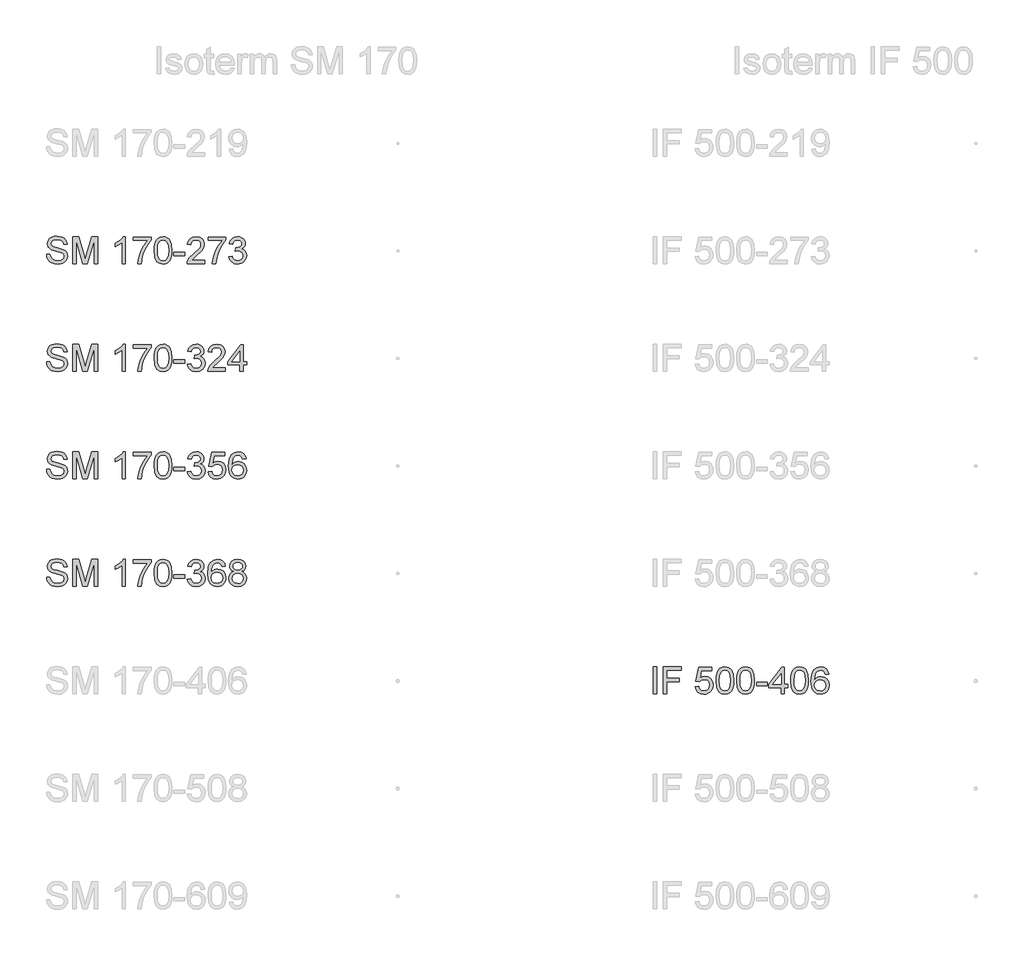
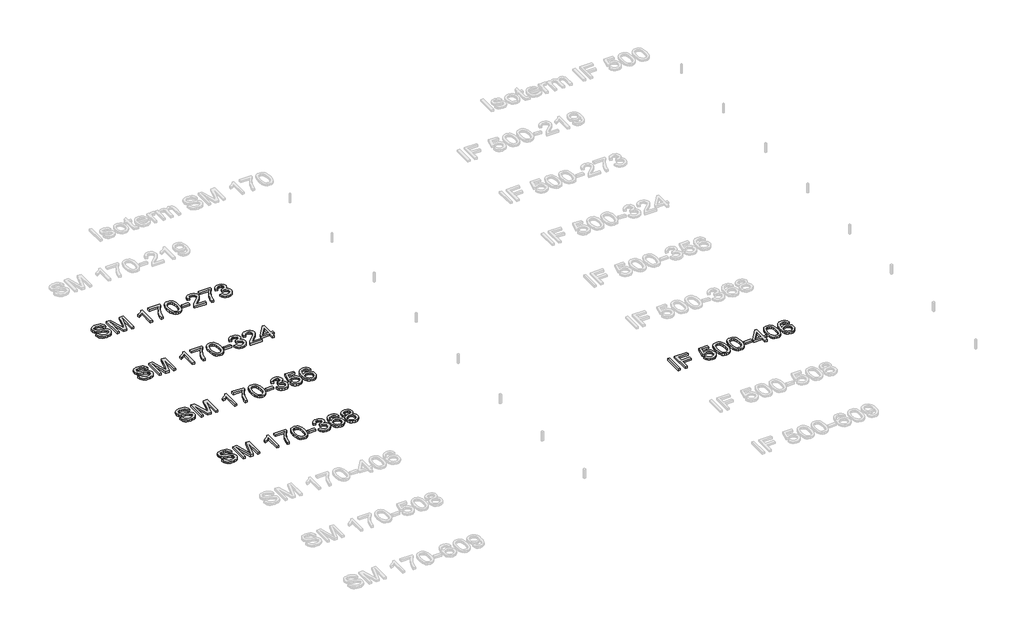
# One storey, part 3 of 10: 5 proxies.
"""IFC4 building model written with IfcOpenShell, lengths in millimetres."""

from ifc_helpers import new_model, si_unit, origin, origin_with_axes, place, context, project, spatial, polyline, outline, extrude, element, save

model = new_model("IFC4")

# Units and contexts
model_context = context("Model", 3, world=origin())
ifc_project = project(units=[si_unit("LENGTHUNIT", "METRE", prefix="MILLI")], contexts=[model_context])

# Site, building, storey
site = spatial("IfcSite", under=ifc_project)
building = spatial("IfcBuilding", under=site)
storey = spatial("IfcBuildingStorey", under=building, Name="Этаж 01", Elevation=0.0)

# Proxies
placement = place(None, origin())
element("IfcBuildingElementProxy", 1, Name="200 мм Arial", ObjectType="200 мм Arial", at=placement, inside=storey, context=model_context, shape_type="SweptSolid", body=[
    extrude(outline(polyline([(362.1098597, -1525.9144615), (387.2239373, -1525.9144615), (395.3173412, -1551.0530645), (403.4475333, -1559.9435461), (415.084867, -1566.9455667), (429.3096375, -1571.4889093), (445.2021397, -1573.0033569), (471.4443887, -1568.4170947), (488.3914859, -1555.811005), (493.9587668, -1538.9620096), (489.7894375, -1523.2902366), (483.4373417, -1517.091425), (472.7197129, -1511.8858947), (436.1522426, -1502.2964374), (396.7888691, -1489.9110769), (384.2870127, -1481.4620537), (375.427188, -1471.2226715), (370.1480813, -1459.4136595), (368.3883791, -1446.2557468), (370.5650143, -1431.5465984), (377.0949197, -1417.8307313), (387.8064171, -1406.2056603), (402.5278283, -1397.7688998), (420.1984268, -1392.636946), (439.7574862, -1390.9262947), (460.9474891, -1392.7166538), (479.4887417, -1398.0877309), (494.7190563, -1406.9291615), (505.9762453, -1419.130581), (513.1008933, -1433.9317), (515.9335846, -1450.5722289), (490.8195071, -1450.5722289), (486.2087194, -1435.5871689), (476.5947366, -1424.7714383), (461.5728885, -1418.2231388), (440.7385048, -1416.0403723), (419.4136118, -1418.1986133), (404.7841712, -1424.6733364), (396.3228853, -1434.2014801), (393.5024567, -1445.5199828), (395.5012822, -1455.1707538), (401.4977587, -1462.9330639), (415.6734782, -1469.8737709), (442.5043384, -1476.9616307), (486.9444834, -1489.5677204), (501.2612244, -1498.6789311), (511.2492206, -1509.9238574), (517.1169384, -1523.179872), (519.0728443, -1538.3243475), (516.8226328, -1553.8060481), (510.0719982, -1568.3680437), (499.096852, -1580.900557), (484.1731057, -1590.2938107), (466.2265957, -1596.1615285), (446.1831584, -1598.1174344), (421.5779843, -1596.0082443), (401.3260804, -1589.680674), (385.1944549, -1579.110198), (372.9501159, -1564.2722909), (365.0897039, -1546.1970222), (362.1098597, -1525.9144615)])), origin_with_axes(), (0.0, 0.0, 1.0), 20.0),
    extrude(outline(polyline([(556.7439606, -1594.9781747), (556.7439606, -1394.0655544), (599.9578323, -1394.0655544), (641.0625139, -1535.6755971), (649.3521216, -1565.2533095), (658.3284422, -1533.2230505), (698.7464108, -1394.0655544), (741.9602825, -1394.0655544), (741.9602825, -1594.9781747), (716.8462049, -1594.9781747), (716.8462049, -1419.179632), (666.3727952, -1594.9781747), (632.3314479, -1594.9781747), (581.8580382, -1419.179632), (581.8580382, -1594.9781747), (556.7439606, -1594.9781747)])), origin_with_axes(), (0.0, 0.0, 1.0), 20.0),
    extrude(outline(polyline([(949.1514222, -1594.9781747), (924.0373446, -1594.9781747), (924.0373446, -1438.4075976), (900.2476423, -1455.3546948), (873.8091896, -1468.0343609), (873.8091896, -1444.2937095), (910.6219145, -1420.7983127), (924.0925269, -1407.2234671), (932.9646144, -1394.0655544), (949.1514222, -1394.0655544), (949.1514222, -1594.9781747)])), origin_with_axes(), (0.0, 0.0, 1.0), 20.0),
    extrude(outline(polyline([(1008.7973563, -1422.3188917), (1008.7973563, -1397.2048141), (1140.6462634, -1397.2048141), (1140.6462634, -1417.5119003), (1121.8536248, -1441.2954712), (1103.2449272, -1471.5415026), (1086.8312589, -1505.4908794), (1074.623708, -1540.3844866), (1065.3040308, -1594.9781747), (1040.1899532, -1594.9781747), (1042.9061486, -1569.091545), (1050.171818, -1538.3243475), (1061.7907577, -1505.7116086), (1077.566764, -1474.2883548), (1095.9853892, -1445.8817334), (1115.5321859, -1422.3188917), (1008.7973563, -1422.3188917)])), origin_with_axes(), (0.0, 0.0, 1.0), 20.0),
    extrude(outline(polyline([(1162.6210812, -1496.1405454), (1164.4666226, -1463.9815276), (1170.0032466, -1438.3340212), (1179.175771, -1418.8056186), (1191.9290135, -1405.0039124), (1208.3549446, -1396.8001439), (1228.5455348, -1394.0655544), (1244.021104, -1395.6842352), (1257.8779925, -1400.5402775), (1269.4662754, -1408.4436091), (1278.1360277, -1419.2041574), (1289.9082516, -1448.9290226), (1294.4699883, -1496.1405454), (1292.6428411, -1528.1156221), (1287.1613993, -1553.7018149), (1278.0440572, -1573.2486115), (1265.3092088, -1587.1055), (1248.8464895, -1595.3644508), (1228.5455348, -1598.1174344), (1202.4504386, -1593.3349685), (1182.6338618, -1578.9875707), (1173.8782703, -1563.8584236), (1167.6242764, -1545.007537), (1162.6210812, -1496.1405454)]), holes=[polyline([(1187.7351588, -1496.0914944), (1190.6782147, -1535.5958893), (1199.5073826, -1558.4597553), (1212.6530326, -1569.3674565), (1228.5455348, -1573.0033569), (1244.438037, -1569.3551938), (1257.5836869, -1558.4107044), (1266.4128548, -1535.5345757), (1269.3559108, -1496.0914944), (1266.5109567, -1457.4761477), (1257.9760944, -1434.434472), (1244.8549699, -1422.993342), (1228.2512292, -1419.179632), (1212.5304052, -1422.5396209), (1199.8997901, -1432.6195875), (1190.7763166, -1457.0960029), (1187.7351588, -1496.0914944)])]), origin_with_axes(), (0.0, 0.0, 1.0), 20.0),
    extrude(outline(polyline([(1310.1662868, -1535.3322406), (1310.1662868, -1510.218163), (1388.6477791, -1510.218163), (1388.6477791, -1535.3322406), (1310.1662868, -1535.3322406)])), origin_with_axes(), (0.0, 0.0, 1.0), 20.0),
    extrude(outline(polyline([(1539.3322443, -1569.8640972), (1539.3322443, -1594.9781747), (1407.4833372, -1594.9781747), (1410.1811385, -1577.6631955), (1425.4359786, -1551.0040136), (1456.8776264, -1521.892285), (1500.2386509, -1480.0518394), (1508.368843, -1465.6308652), (1511.0789071, -1451.6022985), (1508.5221272, -1439.0268656), (1500.8517876, -1428.5728856), (1489.0611697, -1421.5279454), (1474.1435548, -1419.179632), (1458.4779131, -1421.4727631), (1446.3071504, -1428.3521564), (1438.4528699, -1439.2782516), (1435.7366745, -1453.7114886), (1410.6225969, -1450.5722289), (1416.7110439, -1426.2797545), (1429.875088, -1408.5355796), (1449.428016, -1397.6830607), (1474.683115, -1394.0655544), (1500.122155, -1398.0877309), (1519.6382948, -1410.1542603), (1532.0543122, -1428.1804781), (1536.1929846, -1450.0817196), (1531.7293497, -1473.8959474), (1516.8914426, -1498.5195156), (1480.9125835, -1532.9287449), (1452.0215841, -1557.0863292), (1440.6908187, -1569.8640972), (1539.3322443, -1569.8640972)])), origin_with_axes(), (0.0, 0.0, 1.0), 20.0),
    extrude(outline(polyline([(1564.4463218, -1422.3188917), (1564.4463218, -1397.2048141), (1696.2952289, -1397.2048141), (1696.2952289, -1417.5119003), (1677.5025903, -1441.2954712), (1658.8938927, -1471.5415026), (1642.4802244, -1505.4908794), (1630.2726735, -1540.3844866), (1620.9529963, -1594.9781747), (1595.8389188, -1594.9781747), (1598.5551142, -1569.091545), (1605.8207836, -1538.3243475), (1617.4397232, -1505.7116086), (1633.2157295, -1474.2883548), (1651.6343547, -1445.8817334), (1671.1811514, -1422.3188917), (1564.4463218, -1422.3188917)])), origin_with_axes(), (0.0, 0.0, 1.0), 20.0),
    extrude(outline(polyline([(1718.2700468, -1541.61076), (1743.3841243, -1538.4715003), (1749.0065874, -1554.2536379), (1757.2410128, -1564.909953), (1768.4920705, -1570.9800059), (1783.1644307, -1573.0033569), (1800.3813081, -1570.2197164), (1813.6741108, -1561.8687952), (1822.1721849, -1549.4098583), (1825.0048763, -1534.302171), (1822.1967104, -1519.9609045), (1813.7722127, -1508.3297021), (1801.0189702, -1500.6225743), (1785.2245699, -1498.0535317), (1767.615285, -1500.800384), (1770.4111882, -1475.6863064), (1774.4333647, -1475.980612), (1789.4797383, -1474.1779902), (1802.9319566, -1468.7701249), (1812.423312, -1459.622126), (1815.5870972, -1446.5991033), (1813.2939661, -1435.7527158), (1806.4145728, -1426.9542048), (1795.9176732, -1421.1232752), (1782.7720232, -1419.179632), (1769.6018478, -1421.1416693), (1758.8351681, -1427.0277812), (1750.9747561, -1436.8379677), (1746.523384, -1450.5722289), (1721.4093064, -1447.4329692), (1728.8037345, -1424.8818029), (1741.9616472, -1408.0450702), (1759.9633395, -1397.5604334), (1781.8891064, -1394.0655544), (1797.6773754, -1395.7884684), (1812.1780574, -1400.9572105), (1824.4040024, -1409.111928), (1833.3680603, -1419.7927686), (1838.8678961, -1432.0984214), (1840.7011747, -1445.1275754), (1838.9598666, -1457.2676812), (1833.7359423, -1468.2796156), (1825.1029781, -1477.6606065), (1813.1345506, -1484.9078818), (1828.8553745, -1491.2599776), (1840.504971, -1502.0757082), (1847.7154581, -1516.7664625), (1850.1189538, -1534.7436294), (1845.3119624, -1559.2200448), (1830.8909882, -1579.6742837), (1809.1246368, -1593.5066467), (1782.2815139, -1598.1174344), (1758.0013022, -1594.1810971), (1738.2337764, -1582.372085), (1724.4872525, -1564.3090791), (1718.2700468, -1541.61076)])), origin_with_axes(), (0.0, 0.0, 1.0), 20.0),
])
element("IfcBuildingElementProxy", 2, Name="200 мм Arial", ObjectType="200 мм Arial", at=placement, inside=storey, context=model_context, shape_type="SweptSolid", body=[
    extrude(outline(polyline([(362.1098597, -2325.9144615), (387.2239373, -2325.9144615), (395.3173412, -2351.0530645), (403.4475333, -2359.9435461), (415.084867, -2366.9455667), (429.3096375, -2371.4889093), (445.2021397, -2373.0033569), (471.4443887, -2368.4170947), (488.3914859, -2355.811005), (493.9587668, -2338.9620096), (489.7894375, -2323.2902366), (483.4373417, -2317.091425), (472.7197129, -2311.8858947), (436.1522426, -2302.2964374), (396.7888691, -2289.9110769), (384.2870127, -2281.4620537), (375.427188, -2271.2226715), (370.1480813, -2259.4136595), (368.3883791, -2246.2557468), (370.5650143, -2231.5465984), (377.0949197, -2217.8307313), (387.8064171, -2206.2056603), (402.5278283, -2197.7688998), (420.1984268, -2192.636946), (439.7574862, -2190.9262947), (460.9474891, -2192.7166538), (479.4887417, -2198.0877309), (494.7190563, -2206.9291615), (505.9762453, -2219.130581), (513.1008933, -2233.9317), (515.9335846, -2250.5722289), (490.8195071, -2250.5722289), (486.2087194, -2235.5871689), (476.5947366, -2224.7714383), (461.5728885, -2218.2231388), (440.7385048, -2216.0403723), (419.4136118, -2218.1986133), (404.7841712, -2224.6733364), (396.3228853, -2234.2014801), (393.5024567, -2245.5199828), (395.5012822, -2255.1707538), (401.4977587, -2262.9330639), (415.6734782, -2269.8737709), (442.5043384, -2276.9616307), (486.9444834, -2289.5677204), (501.2612244, -2298.6789311), (511.2492206, -2309.9238574), (517.1169384, -2323.179872), (519.0728443, -2338.3243475), (516.8226328, -2353.8060481), (510.0719982, -2368.3680437), (499.096852, -2380.900557), (484.1731057, -2390.2938107), (466.2265957, -2396.1615285), (446.1831584, -2398.1174344), (421.5779843, -2396.0082443), (401.3260804, -2389.680674), (385.1944549, -2379.110198), (372.9501159, -2364.2722909), (365.0897039, -2346.1970222), (362.1098597, -2325.9144615)])), origin_with_axes(), (0.0, 0.0, 1.0), 20.0),
    extrude(outline(polyline([(556.7439606, -2394.9781747), (556.7439606, -2194.0655544), (599.9578323, -2194.0655544), (641.0625139, -2335.6755971), (649.3521216, -2365.2533095), (658.3284422, -2333.2230505), (698.7464108, -2194.0655544), (741.9602825, -2194.0655544), (741.9602825, -2394.9781747), (716.8462049, -2394.9781747), (716.8462049, -2219.179632), (666.3727952, -2394.9781747), (632.3314479, -2394.9781747), (581.8580382, -2219.179632), (581.8580382, -2394.9781747), (556.7439606, -2394.9781747)])), origin_with_axes(), (0.0, 0.0, 1.0), 20.0),
    extrude(outline(polyline([(949.1514222, -2394.9781747), (924.0373446, -2394.9781747), (924.0373446, -2238.4075976), (900.2476423, -2255.3546948), (873.8091896, -2268.0343609), (873.8091896, -2244.2937095), (910.6219145, -2220.7983127), (924.0925269, -2207.2234671), (932.9646144, -2194.0655544), (949.1514222, -2194.0655544), (949.1514222, -2394.9781747)])), origin_with_axes(), (0.0, 0.0, 1.0), 20.0),
    extrude(outline(polyline([(1008.7973563, -2222.3188917), (1008.7973563, -2197.2048141), (1140.6462634, -2197.2048141), (1140.6462634, -2217.5119003), (1121.8536248, -2241.2954712), (1103.2449272, -2271.5415026), (1086.8312589, -2305.4908794), (1074.623708, -2340.3844866), (1065.3040308, -2394.9781747), (1040.1899532, -2394.9781747), (1042.9061486, -2369.091545), (1050.171818, -2338.3243475), (1061.7907577, -2305.7116086), (1077.566764, -2274.2883548), (1095.9853892, -2245.8817334), (1115.5321859, -2222.3188917), (1008.7973563, -2222.3188917)])), origin_with_axes(), (0.0, 0.0, 1.0), 20.0),
    extrude(outline(polyline([(1162.6210812, -2296.1405454), (1164.4666226, -2263.9815276), (1170.0032466, -2238.3340212), (1179.175771, -2218.8056186), (1191.9290135, -2205.0039124), (1208.3549446, -2196.8001439), (1228.5455348, -2194.0655544), (1244.021104, -2195.6842352), (1257.8779925, -2200.5402775), (1269.4662754, -2208.4436091), (1278.1360277, -2219.2041574), (1289.9082516, -2248.9290226), (1294.4699883, -2296.1405454), (1292.6428411, -2328.1156221), (1287.1613993, -2353.7018149), (1278.0440572, -2373.2486115), (1265.3092088, -2387.1055), (1248.8464895, -2395.3644508), (1228.5455348, -2398.1174344), (1202.4504386, -2393.3349685), (1182.6338618, -2378.9875707), (1173.8782703, -2363.8584236), (1167.6242764, -2345.007537), (1162.6210812, -2296.1405454)]), holes=[polyline([(1187.7351588, -2296.0914944), (1190.6782147, -2335.5958893), (1199.5073826, -2358.4597553), (1212.6530326, -2369.3674565), (1228.5455348, -2373.0033569), (1244.438037, -2369.3551938), (1257.5836869, -2358.4107044), (1266.4128548, -2335.5345757), (1269.3559108, -2296.0914944), (1266.5109567, -2257.4761477), (1257.9760944, -2234.434472), (1244.8549699, -2222.993342), (1228.2512292, -2219.179632), (1212.5304052, -2222.5396209), (1199.8997901, -2232.6195875), (1190.7763166, -2257.0960029), (1187.7351588, -2296.0914944)])]), origin_with_axes(), (0.0, 0.0, 1.0), 20.0),
    extrude(outline(polyline([(1310.1662868, -2335.3322406), (1310.1662868, -2310.218163), (1388.6477791, -2310.218163), (1388.6477791, -2335.3322406), (1310.1662868, -2335.3322406)])), origin_with_axes(), (0.0, 0.0, 1.0), 20.0),
    extrude(outline(polyline([(1410.6225969, -2341.61076), (1435.7366745, -2338.4715003), (1441.3591376, -2354.2536379), (1449.5935629, -2364.909953), (1460.8446206, -2370.9800059), (1475.5169809, -2373.0033569), (1492.7338582, -2370.2197164), (1506.026661, -2361.8687952), (1514.5247351, -2349.4098583), (1517.3574265, -2334.302171), (1514.5492606, -2319.9609045), (1506.1247629, -2308.3297021), (1493.3715204, -2300.6225743), (1477.57712, -2298.0535317), (1459.9678352, -2300.800384), (1462.7637384, -2275.6863064), (1466.7859148, -2275.980612), (1481.8322885, -2274.1779902), (1495.2845067, -2268.7701249), (1504.7758622, -2259.622126), (1507.9396474, -2246.5991033), (1505.6465163, -2235.7527158), (1498.767123, -2226.9542048), (1488.2702234, -2221.1232752), (1475.1245734, -2219.179632), (1461.954398, -2221.1416693), (1451.1877183, -2227.0277812), (1443.3273063, -2236.8379677), (1438.8759341, -2250.5722289), (1413.7618566, -2247.4329692), (1421.1562847, -2224.8818029), (1434.3141974, -2208.0450702), (1452.3158897, -2197.5604334), (1474.2416566, -2194.0655544), (1490.0299256, -2195.7884684), (1504.5306076, -2200.9572105), (1516.7565525, -2209.111928), (1525.7206105, -2219.7927686), (1531.2204463, -2232.0984214), (1533.0537249, -2245.1275754), (1531.3124168, -2257.2676812), (1526.0884925, -2268.2796156), (1517.4555283, -2277.6606065), (1505.4871007, -2284.9078818), (1521.2079247, -2291.2599776), (1532.8575212, -2302.0757082), (1540.0680083, -2316.7664625), (1542.471504, -2334.7436294), (1537.6645126, -2359.2200448), (1523.2435384, -2379.6742837), (1501.477187, -2393.5066467), (1474.6340641, -2398.1174344), (1450.3538524, -2394.1810971), (1430.5863265, -2382.372085), (1416.8398026, -2364.3090791), (1410.6225969, -2341.61076)])), origin_with_axes(), (0.0, 0.0, 1.0), 20.0),
    extrude(outline(polyline([(1693.1559692, -2369.8640972), (1693.1559692, -2394.9781747), (1561.3070621, -2394.9781747), (1564.0048634, -2377.6631955), (1579.2597035, -2351.0040136), (1610.7013514, -2321.892285), (1654.0623759, -2280.0518394), (1662.192568, -2265.6308652), (1664.902632, -2251.6022985), (1662.3458521, -2239.0268656), (1654.6755125, -2228.5728856), (1642.8848946, -2221.5279454), (1627.9672797, -2219.179632), (1612.301638, -2221.4727631), (1600.1308754, -2228.3521564), (1592.2765948, -2239.2782516), (1589.5603994, -2253.7114886), (1564.4463218, -2250.5722289), (1570.5347689, -2226.2797545), (1583.6988129, -2208.5355796), (1603.251741, -2197.6830607), (1628.5068399, -2194.0655544), (1653.9458799, -2198.0877309), (1673.4620197, -2210.1542603), (1685.8780371, -2228.1804781), (1690.0167095, -2250.0817196), (1685.5530746, -2273.8959474), (1670.7151675, -2298.5195156), (1634.7363084, -2332.9287449), (1605.845309, -2357.0863292), (1594.5145436, -2369.8640972), (1693.1559692, -2369.8640972)])), origin_with_axes(), (0.0, 0.0, 1.0), 20.0),
    extrude(outline(polyline([(1799.8907987, -2394.9781747), (1799.8907987, -2347.8892793), (1708.8522677, -2347.8892793), (1708.8522677, -2322.7752018), (1806.1693181, -2197.2048141), (1825.0048763, -2197.2048141), (1825.0048763, -2322.7752018), (1850.1189538, -2322.7752018), (1850.1189538, -2347.8892793), (1825.0048763, -2347.8892793), (1825.0048763, -2394.9781747), (1799.8907987, -2394.9781747)]), holes=[polyline([(1799.8907987, -2322.7752018), (1799.8907987, -2245.1766263), (1739.7543553, -2322.7752018), (1799.8907987, -2322.7752018)])]), origin_with_axes(), (0.0, 0.0, 1.0), 20.0),
])
element("IfcBuildingElementProxy", 3, Name="200 мм Arial", ObjectType="200 мм Arial", at=placement, inside=storey, context=model_context, shape_type="SweptSolid", body=[
    extrude(outline(polyline([(362.1098597, -3125.9144615), (387.2239373, -3125.9144615), (395.3173412, -3151.0530645), (403.4475333, -3159.9435461), (415.084867, -3166.9455667), (429.3096375, -3171.4889093), (445.2021397, -3173.0033569), (471.4443887, -3168.4170947), (488.3914859, -3155.811005), (493.9587668, -3138.9620096), (489.7894375, -3123.2902366), (483.4373417, -3117.091425), (472.7197129, -3111.8858947), (436.1522426, -3102.2964374), (396.7888691, -3089.9110769), (384.2870127, -3081.4620537), (375.427188, -3071.2226715), (370.1480813, -3059.4136595), (368.3883791, -3046.2557468), (370.5650143, -3031.5465984), (377.0949197, -3017.8307313), (387.8064171, -3006.2056603), (402.5278283, -2997.7688998), (420.1984268, -2992.636946), (439.7574862, -2990.9262947), (460.9474891, -2992.7166538), (479.4887417, -2998.0877309), (494.7190563, -3006.9291615), (505.9762453, -3019.130581), (513.1008933, -3033.9317), (515.9335846, -3050.5722289), (490.8195071, -3050.5722289), (486.2087194, -3035.5871689), (476.5947366, -3024.7714383), (461.5728885, -3018.2231388), (440.7385048, -3016.0403723), (419.4136118, -3018.1986133), (404.7841712, -3024.6733364), (396.3228853, -3034.2014801), (393.5024567, -3045.5199828), (395.5012822, -3055.1707538), (401.4977587, -3062.9330639), (415.6734782, -3069.8737709), (442.5043384, -3076.9616307), (486.9444834, -3089.5677204), (501.2612244, -3098.6789311), (511.2492206, -3109.9238574), (517.1169384, -3123.179872), (519.0728443, -3138.3243475), (516.8226328, -3153.8060481), (510.0719982, -3168.3680437), (499.096852, -3180.900557), (484.1731057, -3190.2938107), (466.2265957, -3196.1615285), (446.1831584, -3198.1174344), (421.5779843, -3196.0082443), (401.3260804, -3189.680674), (385.1944549, -3179.110198), (372.9501159, -3164.2722909), (365.0897039, -3146.1970222), (362.1098597, -3125.9144615)])), origin_with_axes(), (0.0, 0.0, 1.0), 20.0),
    extrude(outline(polyline([(556.7439606, -3194.9781747), (556.7439606, -2994.0655544), (599.9578323, -2994.0655544), (641.0625139, -3135.6755971), (649.3521216, -3165.2533095), (658.3284422, -3133.2230505), (698.7464108, -2994.0655544), (741.9602825, -2994.0655544), (741.9602825, -3194.9781747), (716.8462049, -3194.9781747), (716.8462049, -3019.179632), (666.3727952, -3194.9781747), (632.3314479, -3194.9781747), (581.8580382, -3019.179632), (581.8580382, -3194.9781747), (556.7439606, -3194.9781747)])), origin_with_axes(), (0.0, 0.0, 1.0), 20.0),
    extrude(outline(polyline([(949.1514222, -3194.9781747), (924.0373446, -3194.9781747), (924.0373446, -3038.4075976), (900.2476423, -3055.3546948), (873.8091896, -3068.0343609), (873.8091896, -3044.2937095), (910.6219145, -3020.7983127), (924.0925269, -3007.2234671), (932.9646144, -2994.0655544), (949.1514222, -2994.0655544), (949.1514222, -3194.9781747)])), origin_with_axes(), (0.0, 0.0, 1.0), 20.0),
    extrude(outline(polyline([(1008.7973563, -3022.3188917), (1008.7973563, -2997.2048141), (1140.6462634, -2997.2048141), (1140.6462634, -3017.5119003), (1121.8536248, -3041.2954712), (1103.2449272, -3071.5415026), (1086.8312589, -3105.4908794), (1074.623708, -3140.3844866), (1065.3040308, -3194.9781747), (1040.1899532, -3194.9781747), (1042.9061486, -3169.091545), (1050.171818, -3138.3243475), (1061.7907577, -3105.7116086), (1077.566764, -3074.2883548), (1095.9853892, -3045.8817334), (1115.5321859, -3022.3188917), (1008.7973563, -3022.3188917)])), origin_with_axes(), (0.0, 0.0, 1.0), 20.0),
    extrude(outline(polyline([(1162.6210812, -3096.1405454), (1164.4666226, -3063.9815276), (1170.0032466, -3038.3340212), (1179.175771, -3018.8056186), (1191.9290135, -3005.0039124), (1208.3549446, -2996.8001439), (1228.5455348, -2994.0655544), (1244.021104, -2995.6842352), (1257.8779925, -3000.5402775), (1269.4662754, -3008.4436091), (1278.1360277, -3019.2041574), (1289.9082516, -3048.9290226), (1294.4699883, -3096.1405454), (1292.6428411, -3128.1156221), (1287.1613993, -3153.7018149), (1278.0440572, -3173.2486115), (1265.3092088, -3187.1055), (1248.8464895, -3195.3644508), (1228.5455348, -3198.1174344), (1202.4504386, -3193.3349685), (1182.6338618, -3178.9875707), (1173.8782703, -3163.8584236), (1167.6242764, -3145.007537), (1162.6210812, -3096.1405454)]), holes=[polyline([(1187.7351588, -3096.0914944), (1190.6782147, -3135.5958893), (1199.5073826, -3158.4597553), (1212.6530326, -3169.3674565), (1228.5455348, -3173.0033569), (1244.438037, -3169.3551938), (1257.5836869, -3158.4107044), (1266.4128548, -3135.5345757), (1269.3559108, -3096.0914944), (1266.5109567, -3057.4761477), (1257.9760944, -3034.434472), (1244.8549699, -3022.993342), (1228.2512292, -3019.179632), (1212.5304052, -3022.5396209), (1199.8997901, -3032.6195875), (1190.7763166, -3057.0960029), (1187.7351588, -3096.0914944)])]), origin_with_axes(), (0.0, 0.0, 1.0), 20.0),
    extrude(outline(polyline([(1310.1662868, -3135.3322406), (1310.1662868, -3110.218163), (1388.6477791, -3110.218163), (1388.6477791, -3135.3322406), (1310.1662868, -3135.3322406)])), origin_with_axes(), (0.0, 0.0, 1.0), 20.0),
    extrude(outline(polyline([(1410.6225969, -3141.61076), (1435.7366745, -3138.4715003), (1441.3591376, -3154.2536379), (1449.5935629, -3164.909953), (1460.8446206, -3170.9800059), (1475.5169809, -3173.0033569), (1492.7338582, -3170.2197164), (1506.026661, -3161.8687952), (1514.5247351, -3149.4098583), (1517.3574265, -3134.302171), (1514.5492606, -3119.9609045), (1506.1247629, -3108.3297021), (1493.3715204, -3100.6225743), (1477.57712, -3098.0535317), (1459.9678352, -3100.800384), (1462.7637384, -3075.6863064), (1466.7859148, -3075.980612), (1481.8322885, -3074.1779902), (1495.2845067, -3068.7701249), (1504.7758622, -3059.622126), (1507.9396474, -3046.5991033), (1505.6465163, -3035.7527158), (1498.767123, -3026.9542048), (1488.2702234, -3021.1232752), (1475.1245734, -3019.179632), (1461.954398, -3021.1416693), (1451.1877183, -3027.0277812), (1443.3273063, -3036.8379677), (1438.8759341, -3050.5722289), (1413.7618566, -3047.4329692), (1421.1562847, -3024.8818029), (1434.3141974, -3008.0450702), (1452.3158897, -2997.5604334), (1474.2416566, -2994.0655544), (1490.0299256, -2995.7884684), (1504.5306076, -3000.9572105), (1516.7565525, -3009.111928), (1525.7206105, -3019.7927686), (1531.2204463, -3032.0984214), (1533.0537249, -3045.1275754), (1531.3124168, -3057.2676812), (1526.0884925, -3068.2796156), (1517.4555283, -3077.6606065), (1505.4871007, -3084.9078818), (1521.2079247, -3091.2599776), (1532.8575212, -3102.0757082), (1540.0680083, -3116.7664625), (1542.471504, -3134.7436294), (1537.6645126, -3159.2200448), (1523.2435384, -3179.6742837), (1501.477187, -3193.5066467), (1474.6340641, -3198.1174344), (1450.3538524, -3194.1810971), (1430.5863265, -3182.372085), (1416.8398026, -3164.3090791), (1410.6225969, -3141.61076)])), origin_with_axes(), (0.0, 0.0, 1.0), 20.0),
    extrude(outline(polyline([(1564.4463218, -3141.61076), (1589.5603994, -3138.4715003), (1594.171187, -3153.5485307), (1602.21554, -3164.3458673), (1613.6566701, -3170.8389845), (1628.457789, -3173.0033569), (1646.4594813, -3169.9928559), (1659.9484878, -3160.9613529), (1668.3729855, -3146.9511803), (1671.1811514, -3129.0046703), (1668.5507951, -3112.1066239), (1660.6597263, -3099.1817032), (1647.4466313, -3090.9779347), (1628.8501965, -3088.2433452), (1606.8018022, -3092.6088782), (1592.6996591, -3103.9396437), (1567.5855815, -3100.800384), (1589.5603994, -2997.2048141), (1686.8774498, -2997.2048141), (1686.8774498, -3022.3188917), (1609.8674855, -3022.3188917), (1599.1253312, -3077.6483437), (1617.0657099, -3066.7590367), (1635.8644798, -3063.1292677), (1659.3292198, -3067.6296907), (1678.8085714, -3081.13096), (1691.9235645, -3101.7078262), (1696.2952289, -3127.4350404), (1692.3588916, -3152.5491179), (1680.5498795, -3174.0334265), (1670.1142936, -3184.5701799), (1657.9373995, -3192.0964324), (1644.0191974, -3196.6121839), (1628.3596871, -3198.1174344), (1603.6931994, -3194.2485421), (1584.0421694, -3182.6418652), (1570.5715571, -3164.6463042), (1564.4463218, -3141.61076)])), origin_with_axes(), (0.0, 0.0, 1.0), 20.0),
    extrude(outline(polyline([(1846.9796941, -3047.4329692), (1821.8656166, -3050.5722289), (1812.3497357, -3029.6274806), (1800.9576565, -3021.7915941), (1787.1866072, -3019.179632), (1764.5250763, -3025.2619476), (1755.0889031, -3034.8697991), (1747.3817753, -3048.0951568), (1742.1762451, -3066.8019562), (1740.2448646, -3092.8541329), (1750.3186999, -3081.1003031), (1762.3913607, -3072.8168269), (1775.7883967, -3067.9056022), (1789.8353575, -3066.2685273), (1813.0364487, -3070.744425), (1832.509669, -3084.1721178), (1845.7166326, -3104.6876704), (1850.1189538, -3130.4271473), (1848.0465519, -3148.4104455), (1841.8293462, -3165.0816312), (1831.9823715, -3179.2205626), (1819.0206625, -3189.6070976), (1803.5328305, -3195.9898502), (1786.1074867, -3198.1174344), (1757.6150261, -3192.4765772), (1734.9228384, -3175.5540054), (1726.2638159, -3162.4451436), (1720.0787999, -3145.6819874), (1715.1307871, -3101.1927914), (1720.6244915, -3051.1731028), (1727.4916221, -3032.0953557), (1737.1056049, -3016.97234), (1747.5258624, -3006.9506213), (1759.6077203, -2999.7922508), (1788.756237, -2994.0655544), (1810.7923685, -2997.6094843), (1828.4384416, -3008.241274), (1840.7992766, -3025.1270576), (1846.9796941, -3047.4329692)]), holes=[polyline([(1740.2448646, -3130.0347398), (1746.0574001, -3151.7888285), (1761.5084439, -3167.5832288), (1784.1454494, -3173.0033569), (1800.7185332, -3170.195191), (1813.7476872, -3161.7706933), (1822.190579, -3148.5269415), (1825.0048763, -3131.2610132), (1822.2273672, -3114.6879293), (1813.89484, -3102.0511827), (1800.6449568, -3094.0497493), (1783.1153798, -3091.3826049), (1766.5668214, -3094.0497493), (1752.728327, -3102.0511827), (1743.3657302, -3114.3813609), (1740.2448646, -3130.0347398)])]), origin_with_axes(), (0.0, 0.0, 1.0), 20.0),
])
element("IfcBuildingElementProxy", 4, Name="200 мм Arial", ObjectType="200 мм Arial", at=placement, inside=storey, context=model_context, shape_type="SweptSolid", body=[
    extrude(outline(polyline([(362.1098597, -3925.9144615), (387.2239373, -3925.9144615), (395.3173412, -3951.0530645), (403.4475333, -3959.9435461), (415.084867, -3966.9455667), (429.3096375, -3971.4889093), (445.2021397, -3973.0033569), (471.4443887, -3968.4170947), (488.3914859, -3955.811005), (493.9587668, -3938.9620096), (489.7894375, -3923.2902366), (483.4373417, -3917.091425), (472.7197129, -3911.8858947), (436.1522426, -3902.2964374), (396.7888691, -3889.9110769), (384.2870127, -3881.4620537), (375.427188, -3871.2226715), (370.1480813, -3859.4136595), (368.3883791, -3846.2557468), (370.5650143, -3831.5465984), (377.0949197, -3817.8307313), (387.8064171, -3806.2056603), (402.5278283, -3797.7688998), (420.1984268, -3792.636946), (439.7574862, -3790.9262947), (460.9474891, -3792.7166538), (479.4887417, -3798.0877309), (494.7190563, -3806.9291615), (505.9762453, -3819.130581), (513.1008933, -3833.9317), (515.9335846, -3850.5722289), (490.8195071, -3850.5722289), (486.2087194, -3835.5871689), (476.5947366, -3824.7714383), (461.5728885, -3818.2231388), (440.7385048, -3816.0403723), (419.4136118, -3818.1986133), (404.7841712, -3824.6733364), (396.3228853, -3834.2014801), (393.5024567, -3845.5199828), (395.5012822, -3855.1707538), (401.4977587, -3862.9330639), (415.6734782, -3869.8737709), (442.5043384, -3876.9616307), (486.9444834, -3889.5677204), (501.2612244, -3898.6789311), (511.2492206, -3909.9238574), (517.1169384, -3923.179872), (519.0728443, -3938.3243475), (516.8226328, -3953.8060481), (510.0719982, -3968.3680437), (499.096852, -3980.900557), (484.1731057, -3990.2938107), (466.2265957, -3996.1615285), (446.1831584, -3998.1174344), (421.5779843, -3996.0082443), (401.3260804, -3989.680674), (385.1944549, -3979.110198), (372.9501159, -3964.2722909), (365.0897039, -3946.1970222), (362.1098597, -3925.9144615)])), origin_with_axes(), (0.0, 0.0, 1.0), 20.0),
    extrude(outline(polyline([(556.7439606, -3994.9781747), (556.7439606, -3794.0655544), (599.9578323, -3794.0655544), (641.0625139, -3935.6755971), (649.3521216, -3965.2533095), (658.3284422, -3933.2230505), (698.7464108, -3794.0655544), (741.9602825, -3794.0655544), (741.9602825, -3994.9781747), (716.8462049, -3994.9781747), (716.8462049, -3819.179632), (666.3727952, -3994.9781747), (632.3314479, -3994.9781747), (581.8580382, -3819.179632), (581.8580382, -3994.9781747), (556.7439606, -3994.9781747)])), origin_with_axes(), (0.0, 0.0, 1.0), 20.0),
    extrude(outline(polyline([(949.1514222, -3994.9781747), (924.0373446, -3994.9781747), (924.0373446, -3838.4075976), (900.2476423, -3855.3546948), (873.8091896, -3868.0343609), (873.8091896, -3844.2937095), (910.6219145, -3820.7983127), (924.0925269, -3807.2234671), (932.9646144, -3794.0655544), (949.1514222, -3794.0655544), (949.1514222, -3994.9781747)])), origin_with_axes(), (0.0, 0.0, 1.0), 20.0),
    extrude(outline(polyline([(1008.7973563, -3822.3188917), (1008.7973563, -3797.2048141), (1140.6462634, -3797.2048141), (1140.6462634, -3817.5119003), (1121.8536248, -3841.2954712), (1103.2449272, -3871.5415026), (1086.8312589, -3905.4908794), (1074.623708, -3940.3844866), (1065.3040308, -3994.9781747), (1040.1899532, -3994.9781747), (1042.9061486, -3969.091545), (1050.171818, -3938.3243475), (1061.7907577, -3905.7116086), (1077.566764, -3874.2883548), (1095.9853892, -3845.8817334), (1115.5321859, -3822.3188917), (1008.7973563, -3822.3188917)])), origin_with_axes(), (0.0, 0.0, 1.0), 20.0),
    extrude(outline(polyline([(1162.6210812, -3896.1405454), (1164.4666226, -3863.9815276), (1170.0032466, -3838.3340212), (1179.175771, -3818.8056186), (1191.9290135, -3805.0039124), (1208.3549446, -3796.8001439), (1228.5455348, -3794.0655544), (1244.021104, -3795.6842352), (1257.8779925, -3800.5402775), (1269.4662754, -3808.4436091), (1278.1360277, -3819.2041574), (1289.9082516, -3848.9290226), (1294.4699883, -3896.1405454), (1292.6428411, -3928.1156221), (1287.1613993, -3953.7018149), (1278.0440572, -3973.2486115), (1265.3092088, -3987.1055), (1248.8464895, -3995.3644508), (1228.5455348, -3998.1174344), (1202.4504386, -3993.3349685), (1182.6338618, -3978.9875707), (1173.8782703, -3963.8584236), (1167.6242764, -3945.007537), (1162.6210812, -3896.1405454)]), holes=[polyline([(1187.7351588, -3896.0914944), (1190.6782147, -3935.5958893), (1199.5073826, -3958.4597553), (1212.6530326, -3969.3674565), (1228.5455348, -3973.0033569), (1244.438037, -3969.3551938), (1257.5836869, -3958.4107044), (1266.4128548, -3935.5345757), (1269.3559108, -3896.0914944), (1266.5109567, -3857.4761477), (1257.9760944, -3834.434472), (1244.8549699, -3822.993342), (1228.2512292, -3819.179632), (1212.5304052, -3822.5396209), (1199.8997901, -3832.6195875), (1190.7763166, -3857.0960029), (1187.7351588, -3896.0914944)])]), origin_with_axes(), (0.0, 0.0, 1.0), 20.0),
    extrude(outline(polyline([(1310.1662868, -3935.3322406), (1310.1662868, -3910.218163), (1388.6477791, -3910.218163), (1388.6477791, -3935.3322406), (1310.1662868, -3935.3322406)])), origin_with_axes(), (0.0, 0.0, 1.0), 20.0),
    extrude(outline(polyline([(1410.6225969, -3941.61076), (1435.7366745, -3938.4715003), (1441.3591376, -3954.2536379), (1449.5935629, -3964.909953), (1460.8446206, -3970.9800059), (1475.5169809, -3973.0033569), (1492.7338582, -3970.2197164), (1506.026661, -3961.8687952), (1514.5247351, -3949.4098583), (1517.3574265, -3934.302171), (1514.5492606, -3919.9609045), (1506.1247629, -3908.3297021), (1493.3715204, -3900.6225743), (1477.57712, -3898.0535317), (1459.9678352, -3900.800384), (1462.7637384, -3875.6863064), (1466.7859148, -3875.980612), (1481.8322885, -3874.1779902), (1495.2845067, -3868.7701249), (1504.7758622, -3859.622126), (1507.9396474, -3846.5991033), (1505.6465163, -3835.7527158), (1498.767123, -3826.9542048), (1488.2702234, -3821.1232752), (1475.1245734, -3819.179632), (1461.954398, -3821.1416693), (1451.1877183, -3827.0277812), (1443.3273063, -3836.8379677), (1438.8759341, -3850.5722289), (1413.7618566, -3847.4329692), (1421.1562847, -3824.8818029), (1434.3141974, -3808.0450702), (1452.3158897, -3797.5604334), (1474.2416566, -3794.0655544), (1490.0299256, -3795.7884684), (1504.5306076, -3800.9572105), (1516.7565525, -3809.111928), (1525.7206105, -3819.7927686), (1531.2204463, -3832.0984214), (1533.0537249, -3845.1275754), (1531.3124168, -3857.2676812), (1526.0884925, -3868.2796156), (1517.4555283, -3877.6606065), (1505.4871007, -3884.9078818), (1521.2079247, -3891.2599776), (1532.8575212, -3902.0757082), (1540.0680083, -3916.7664625), (1542.471504, -3934.7436294), (1537.6645126, -3959.2200448), (1523.2435384, -3979.6742837), (1501.477187, -3993.5066467), (1474.6340641, -3998.1174344), (1450.3538524, -3994.1810971), (1430.5863265, -3982.372085), (1416.8398026, -3964.3090791), (1410.6225969, -3941.61076)])), origin_with_axes(), (0.0, 0.0, 1.0), 20.0),
    extrude(outline(polyline([(1693.1559692, -3847.4329692), (1668.0418917, -3850.5722289), (1658.5260107, -3829.6274806), (1647.1339316, -3821.7915941), (1633.3628823, -3819.179632), (1610.7013514, -3825.2619476), (1601.2651782, -3834.8697991), (1593.5580504, -3848.0951568), (1588.3525202, -3866.8019562), (1586.4211397, -3892.8541329), (1596.494975, -3881.1003031), (1608.5676358, -3872.8168269), (1621.9646718, -3867.9056022), (1636.0116326, -3866.2685273), (1659.2127238, -3870.744425), (1678.6859441, -3884.1721178), (1691.8929077, -3904.6876704), (1696.2952289, -3930.4271473), (1694.222827, -3948.4104455), (1688.0056213, -3965.0816312), (1678.1586465, -3979.2205626), (1665.1969376, -3989.6070976), (1649.7091056, -3995.9898502), (1632.2837617, -3998.1174344), (1603.7913012, -3992.4765772), (1581.0991135, -3975.5540054), (1572.440091, -3962.4451436), (1566.255075, -3945.6819874), (1561.3070621, -3901.1927914), (1566.8007666, -3851.1731028), (1573.6678972, -3832.0953557), (1583.28188, -3816.97234), (1593.7021375, -3806.9506213), (1605.7839954, -3799.7922508), (1634.9325121, -3794.0655544), (1656.9686436, -3797.6094843), (1674.6147167, -3808.241274), (1686.9755517, -3825.1270576), (1693.1559692, -3847.4329692)]), holes=[polyline([(1586.4211397, -3930.0347398), (1592.2336752, -3951.7888285), (1607.684719, -3967.5832288), (1630.3217244, -3973.0033569), (1646.8948083, -3970.195191), (1659.9239623, -3961.7706933), (1668.3668541, -3948.5269415), (1671.1811514, -3931.2610132), (1668.4036423, -3914.6879293), (1660.0711151, -3902.0511827), (1646.8212319, -3894.0497493), (1629.2916549, -3891.3826049), (1612.7430964, -3894.0497493), (1598.904602, -3902.0511827), (1589.5420053, -3914.3813609), (1586.4211397, -3930.0347398)])]), origin_with_axes(), (0.0, 0.0, 1.0), 20.0),
    extrude(outline(polyline([(1754.8620425, -3884.3192706), (1741.4159556, -3877.6973947), (1731.9797824, -3868.721074), (1726.4063702, -3857.5742495), (1724.5485661, -3844.4408623), (1728.5952681, -3824.8082265), (1740.7353739, -3808.5846305), (1759.6077203, -3797.6953234), (1783.8511438, -3794.0655544), (1808.24172, -3797.7811626), (1827.3593211, -3808.927987), (1839.7201561, -3825.4091004), (1843.8404344, -3845.1275754), (1842.0071558, -3857.8378983), (1836.50732, -3868.7946504), (1827.2796133, -3877.7157888), (1814.262722, -3884.3192706), (1829.7198972, -3892.2839158), (1840.9709549, -3904.0132201), (1847.8319541, -3918.9430977), (1850.1189538, -3936.509463), (1845.5817425, -3960.5198945), (1831.9701087, -3980.3609968), (1810.9517841, -3993.678325), (1784.1945003, -3998.1174344), (1757.4372165, -3993.6599309), (1736.4188918, -3980.2874204), (1722.807258, -3960.2562457), (1718.2700468, -3935.8227499), (1720.649017, -3917.5758029), (1727.7859277, -3902.5662175), (1739.3128969, -3891.3090285), (1754.8620425, -3884.3192706)]), holes=[polyline([(1749.6626437, -3845.1766263), (1751.8883297, -3856.1395097), (1758.565388, -3864.8951012), (1769.4976146, -3870.6340604), (1784.4888059, -3872.5470467), (1799.1305093, -3870.6463231), (1809.897189, -3864.9441522), (1816.5190649, -3856.4828663), (1818.7263569, -3846.3047977), (1816.4454885, -3835.7404531), (1809.6028834, -3827.0032557), (1798.6890509, -3821.1355379), (1784.1945003, -3819.179632), (1769.6079792, -3821.0926183), (1758.7125408, -3826.8315775), (1751.9251179, -3835.2438124), (1749.6626437, -3845.1766263)]), polyline([(1743.3841243, -3934.9398331), (1747.577979, -3953.8489677), (1753.3843832, -3961.9607657), (1762.4158862, -3968.0001617), (1784.390704, -3973.0033569), (1801.4849541, -3970.3730006), (1814.311773, -3962.4819318), (1822.3316005, -3950.5318983), (1825.0048763, -3935.724648), (1822.2457613, -3920.6660117), (1813.9684164, -3908.4523295), (1800.8472919, -3900.3589256), (1783.5568382, -3897.6611243), (1766.7017114, -3900.3221374), (1754.0036512, -3908.3051767), (1746.039006, -3920.285867), (1743.3841243, -3934.9398331)])]), origin_with_axes(), (0.0, 0.0, 1.0), 20.0),
])
element("IfcBuildingElementProxy", 5, Name="200 мм Arial", ObjectType="200 мм Arial", at=placement, inside=storey, context=model_context, shape_type="SweptSolid", body=[
    extrude(outline(polyline([(4874.6668985, -4794.9781747), (4874.6668985, -4594.0655544), (4899.780976, -4594.0655544), (4899.780976, -4794.9781747), (4874.6668985, -4794.9781747)])), origin_with_axes(), (0.0, 0.0, 1.0), 20.0),
    extrude(outline(polyline([(4950.0091311, -4794.9781747), (4950.0091311, -4594.0655544), (5084.9972979, -4594.0655544), (5084.9972979, -4619.179632), (4975.1232086, -4619.179632), (4975.1232086, -4678.8255661), (5069.3009994, -4678.8255661), (5069.3009994, -4703.9396437), (4975.1232086, -4703.9396437), (4975.1232086, -4794.9781747), (4950.0091311, -4794.9781747)])), origin_with_axes(), (0.0, 0.0, 1.0), 20.0),
    extrude(outline(polyline([(5188.5928677, -4741.61076), (5213.7069453, -4738.4715003), (5218.3177329, -4753.5485307), (5226.3620859, -4764.3458673), (5237.8032159, -4770.8389845), (5252.6043349, -4773.0033569), (5270.6060272, -4769.9928559), (5284.0950337, -4760.9613529), (5292.5195314, -4746.9511803), (5295.3276973, -4729.0046703), (5292.697341, -4712.1066239), (5284.8062722, -4699.1817032), (5271.5931772, -4690.9779347), (5252.9967423, -4688.2433452), (5230.9483481, -4692.6088782), (5216.8462049, -4703.9396437), (5191.7321274, -4700.800384), (5213.7069453, -4597.2048141), (5311.0239957, -4597.2048141), (5311.0239957, -4622.3188917), (5234.0140314, -4622.3188917), (5223.2718771, -4677.6483437), (5241.2122558, -4666.7590367), (5260.0110257, -4663.1292677), (5283.4757656, -4667.6296907), (5302.9551173, -4681.13096), (5316.0701104, -4701.7078262), (5320.4417748, -4727.4350404), (5316.5054374, -4752.5491179), (5304.6964254, -4774.0334265), (5294.2608395, -4784.5701799), (5282.0839454, -4792.0964324), (5268.1657433, -4796.6121839), (5252.506233, -4798.1174344), (5227.8397452, -4794.2485421), (5208.1887153, -4782.6418652), (5194.7181029, -4764.6463042), (5188.5928677, -4741.61076)])), origin_with_axes(), (0.0, 0.0, 1.0), 20.0),
    extrude(outline(polyline([(5342.4165926, -4696.1405454), (5344.262134, -4663.9815276), (5349.798758, -4638.3340212), (5358.9712824, -4618.8056186), (5371.7245249, -4605.0039124), (5388.150456, -4596.8001439), (5408.3410462, -4594.0655544), (5423.8166154, -4595.6842352), (5437.6735039, -4600.5402775), (5449.2617868, -4608.4436091), (5457.9315391, -4619.2041574), (5469.703763, -4648.9290226), (5474.2654997, -4696.1405454), (5472.4383525, -4728.1156221), (5466.9569107, -4753.7018149), (5457.8395686, -4773.2486115), (5445.1047202, -4787.1055), (5428.6420009, -4795.3644508), (5408.3410462, -4798.1174344), (5382.24595, -4793.3349685), (5362.4293732, -4778.9875707), (5353.6737817, -4763.8584236), (5347.4197878, -4745.007537), (5342.4165926, -4696.1405454)]), holes=[polyline([(5367.5306702, -4696.0914944), (5370.4737261, -4735.5958893), (5379.302894, -4758.4597553), (5392.448544, -4769.3674565), (5408.3410462, -4773.0033569), (5424.2335484, -4769.3551938), (5437.3791983, -4758.4107044), (5446.2083662, -4735.5345757), (5449.1514222, -4696.0914944), (5446.3064681, -4657.4761477), (5437.7716058, -4634.434472), (5424.6504813, -4622.993342), (5408.0467406, -4619.179632), (5392.3259166, -4622.5396209), (5379.6953015, -4632.6195875), (5370.571828, -4657.0960029), (5367.5306702, -4696.0914944)])]), origin_with_axes(), (0.0, 0.0, 1.0), 20.0),
    extrude(outline(polyline([(5496.2403175, -4696.1405454), (5498.0858589, -4663.9815276), (5503.6224829, -4638.3340212), (5512.7950073, -4618.8056186), (5525.5482498, -4605.0039124), (5541.9741809, -4596.8001439), (5562.1647711, -4594.0655544), (5577.6403403, -4595.6842352), (5591.4972288, -4600.5402775), (5603.0855117, -4608.4436091), (5611.755264, -4619.2041574), (5623.5274879, -4648.9290226), (5628.0892246, -4696.1405454), (5626.2620774, -4728.1156221), (5620.7806357, -4753.7018149), (5611.6632935, -4773.2486115), (5598.9284451, -4787.1055), (5582.4657259, -4795.3644508), (5562.1647711, -4798.1174344), (5536.0696749, -4793.3349685), (5516.2530981, -4778.9875707), (5507.4975066, -4763.8584236), (5501.2435127, -4745.007537), (5496.2403175, -4696.1405454)]), holes=[polyline([(5521.3543951, -4696.0914944), (5524.297451, -4735.5958893), (5533.1266189, -4758.4597553), (5546.2722689, -4769.3674565), (5562.1647711, -4773.0033569), (5578.0572733, -4769.3551938), (5591.2029232, -4758.4107044), (5600.0320911, -4735.5345757), (5602.9751471, -4696.0914944), (5600.130193, -4657.4761477), (5591.5953307, -4634.434472), (5578.4742062, -4622.993342), (5561.8704655, -4619.179632), (5546.1496416, -4622.5396209), (5533.5190264, -4632.6195875), (5524.3955529, -4657.0960029), (5521.3543951, -4696.0914944)])]), origin_with_axes(), (0.0, 0.0, 1.0), 20.0),
    extrude(outline(polyline([(5643.7855231, -4735.3322406), (5643.7855231, -4710.218163), (5722.2670154, -4710.218163), (5722.2670154, -4735.3322406), (5643.7855231, -4735.3322406)])), origin_with_axes(), (0.0, 0.0, 1.0), 20.0),
    extrude(outline(polyline([(5825.8625852, -4794.9781747), (5825.8625852, -4747.8892793), (5734.8240542, -4747.8892793), (5734.8240542, -4722.7752018), (5832.1411046, -4597.2048141), (5850.9766628, -4597.2048141), (5850.9766628, -4722.7752018), (5876.0907403, -4722.7752018), (5876.0907403, -4747.8892793), (5850.9766628, -4747.8892793), (5850.9766628, -4794.9781747), (5825.8625852, -4794.9781747)]), holes=[polyline([(5825.8625852, -4722.7752018), (5825.8625852, -4645.1766263), (5765.7261418, -4722.7752018), (5825.8625852, -4722.7752018)])]), origin_with_axes(), (0.0, 0.0, 1.0), 20.0),
    extrude(outline(polyline([(5898.0655581, -4696.1405454), (5899.9110995, -4663.9815276), (5905.4477235, -4638.3340212), (5914.6202479, -4618.8056186), (5927.3734904, -4605.0039124), (5943.7994215, -4596.8001439), (5963.9900117, -4594.0655544), (5979.4655809, -4595.6842352), (5993.3224694, -4600.5402775), (6004.9107523, -4608.4436091), (6013.5805046, -4619.2041574), (6025.3527285, -4648.9290226), (6029.9144652, -4696.1405454), (6028.087318, -4728.1156221), (6022.6058762, -4753.7018149), (6013.4885341, -4773.2486115), (6000.7536857, -4787.1055), (5984.2909665, -4795.3644508), (5963.9900117, -4798.1174344), (5937.8949155, -4793.3349685), (5918.0783387, -4778.9875707), (5909.3227472, -4763.8584236), (5903.0687533, -4745.007537), (5898.0655581, -4696.1405454)]), holes=[polyline([(5923.1796357, -4696.0914944), (5926.1226916, -4735.5958893), (5934.9518595, -4758.4597553), (5948.0975095, -4769.3674565), (5963.9900117, -4773.0033569), (5979.8825139, -4769.3551938), (5993.0281638, -4758.4107044), (6001.8573317, -4735.5345757), (6004.8003877, -4696.0914944), (6001.9554336, -4657.4761477), (5993.4205713, -4634.434472), (5980.2994468, -4622.993342), (5963.6957061, -4619.179632), (5947.9748822, -4622.5396209), (5935.344267, -4632.6195875), (5926.2207935, -4657.0960029), (5923.1796357, -4696.0914944)])]), origin_with_axes(), (0.0, 0.0, 1.0), 20.0),
    extrude(outline(polyline([(6180.5989304, -4647.4329692), (6155.4848529, -4650.5722289), (6145.968972, -4629.6274806), (6134.5768928, -4621.7915941), (6120.8058435, -4619.179632), (6098.1443126, -4625.2619476), (6088.7081394, -4634.8697991), (6081.0010116, -4648.0951568), (6075.7954814, -4666.8019562), (6073.8641009, -4692.8541329), (6083.9379362, -4681.1003031), (6096.010597, -4672.8168269), (6109.407633, -4667.9056022), (6123.4545939, -4666.2685273), (6146.655685, -4670.744425), (6166.1289053, -4684.1721178), (6179.3358689, -4704.6876704), (6183.7381901, -4730.4271473), (6181.6657882, -4748.4104455), (6175.4485825, -4765.0816312), (6165.6016078, -4779.2205626), (6152.6398988, -4789.6070976), (6137.1520668, -4795.9898502), (6119.726723, -4798.1174344), (6091.2342624, -4792.4765772), (6068.5420747, -4775.5540054), (6059.8830523, -4762.4451436), (6053.6980362, -4745.6819874), (6048.7500234, -4701.1927914), (6054.2437278, -4651.1731028), (6061.1108584, -4632.0953557), (6070.7248412, -4616.97234), (6081.1450987, -4606.9506213), (6093.2269566, -4599.7922508), (6122.3754733, -4594.0655544), (6144.4116049, -4597.6094843), (6162.0576779, -4608.241274), (6174.4185129, -4625.1270576), (6180.5989304, -4647.4329692)]), holes=[polyline([(6073.8641009, -4730.0347398), (6079.6766364, -4751.7888285), (6095.1276802, -4767.5832288), (6117.7646857, -4773.0033569), (6134.3377696, -4770.195191), (6147.3669235, -4761.7706933), (6155.8098153, -4748.5269415), (6158.6241126, -4731.2610132), (6155.8466035, -4714.6879293), (6147.5140763, -4702.0511827), (6134.2641932, -4694.0497493), (6116.7346161, -4691.3826049), (6100.1860577, -4694.0497493), (6086.3475633, -4702.0511827), (6076.9849665, -4714.3813609), (6073.8641009, -4730.0347398)])]), origin_with_axes(), (0.0, 0.0, 1.0), 20.0),
])

save(model, "model.ifc")
